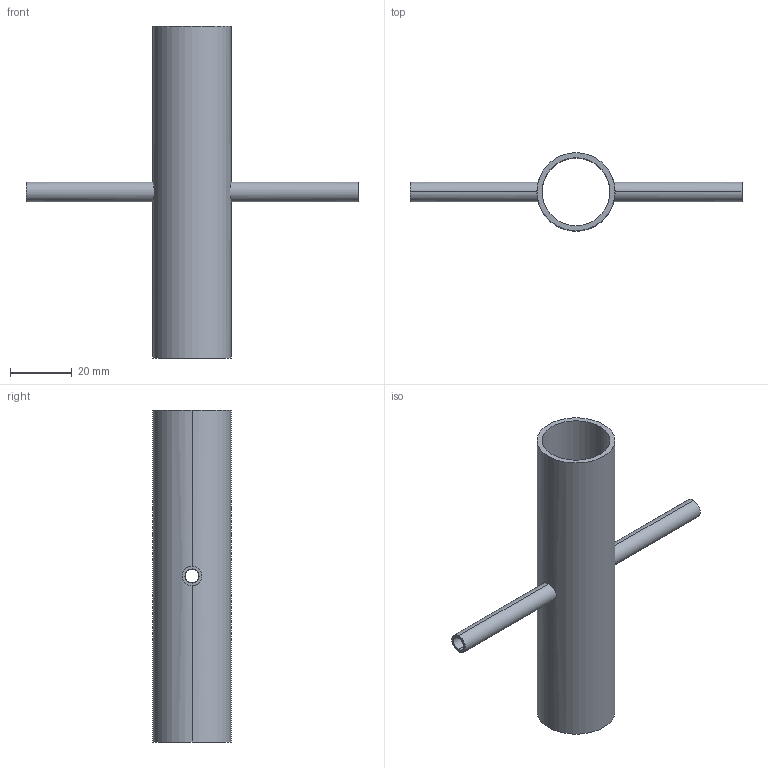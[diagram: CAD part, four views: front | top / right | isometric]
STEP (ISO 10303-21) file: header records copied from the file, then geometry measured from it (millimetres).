
FILE_DESCRIPTION (( 'STEP AP214' ), '1' );
FILE_NAME ('TE9RWWWW6L1.0x.25-...STEP', '2016-05-22T04:11:20', ( 'eran' ), ( '' ), 'SwSTEP 2.0', 'SolidWorks 2016', '' );
FILE_SCHEMA (( 'AUTOMOTIVE_DESIGN' ));
Length unit declared in the file: millimetre
Products named in the file (1): TE9RWWWW6L1.0x.25-..
Bounding box: 107.95 x 25.4 x 107.95 mm (x, y, z)
Volume: 14506.5 mm3; surface area: 19179.6 mm2
Topology: 1 solids, 1 shells, 16 faces, 40 edges, 24 vertices
Faces by surface type: cylinder 12, plane 4
Entity records: 754 total; most frequent: CARTESIAN_POINT 329, DIRECTION 82, ORIENTED_EDGE 80, EDGE_CURVE 40, AXIS2_PLACEMENT_3D 33, VERTEX_POINT 24, EDGE_LOOP 20, ADVANCED_FACE 16
